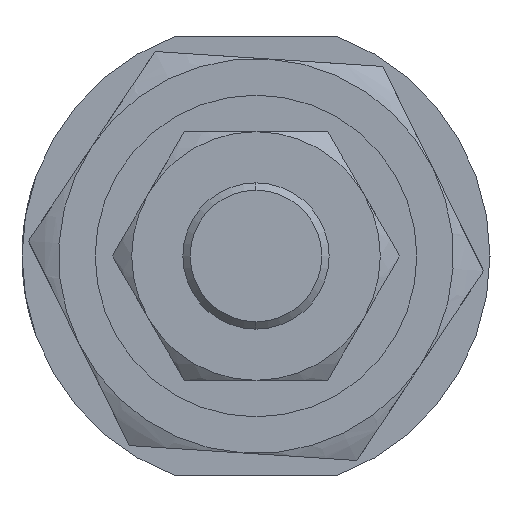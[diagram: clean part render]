
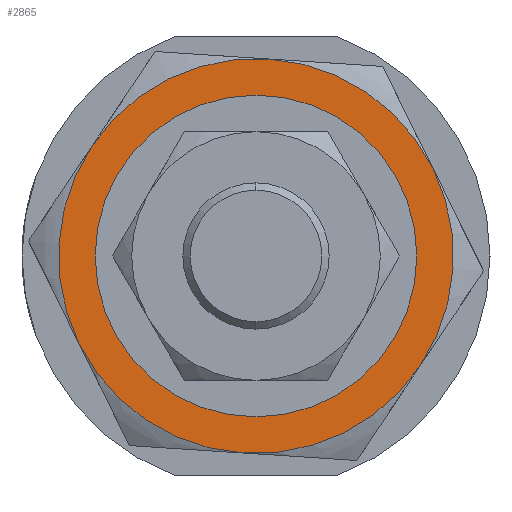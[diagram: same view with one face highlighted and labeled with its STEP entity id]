
A CAD part, left-side view. The second image highlights one B-rep face of the part: STEP entity #2865.
In plain terms, the highlighted planar face has unit normal (-1, 0, 0) as drawn and (0, 0, -1) by its records, which use the part's own axes.
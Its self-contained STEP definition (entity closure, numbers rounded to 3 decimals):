
#9 = ORIENTED_EDGE ( 'NONE', *, *, #1654, .F. ) ;
#50 = VERTEX_POINT ( 'NONE', #1786 ) ;
#89 = DIRECTION ( 'NONE',  ( 0., 0., 1. ) ) ;
#92 = DIRECTION ( 'NONE',  ( 1., 0., 0. ) ) ;
#369 = EDGE_CURVE ( 'NONE', #1678, #2189, #1329, .T. ) ;
#376 = CIRCLE ( 'NONE', #2902, 13.5 ) ;
#410 = EDGE_CURVE ( 'NONE', #2397, #2269, #2301, .T. ) ;
#460 = EDGE_CURVE ( 'NONE', #2189, #776, #2947, .T. ) ;
#476 = AXIS2_PLACEMENT_3D ( 'NONE', #1519, #824, #92 ) ;
#557 = AXIS2_PLACEMENT_3D ( 'NONE', #810, #3019, #2788 ) ;
#562 = PLANE ( 'NONE',  #476 ) ;
#593 = AXIS2_PLACEMENT_3D ( 'NONE', #2457, #2951, #1229 ) ;
#674 = AXIS2_PLACEMENT_3D ( 'NONE', #2234, #1983, #2940 ) ;
#678 = EDGE_CURVE ( 'NONE', #1805, #50, #688, .T. ) ;
#688 = CIRCLE ( 'NONE', #557, 13.5 ) ;
#704 = DIRECTION ( 'NONE',  ( 1., 0., 0. ) ) ;
#776 = VERTEX_POINT ( 'NONE', #1850 ) ;
#787 = AXIS2_PLACEMENT_3D ( 'NONE', #2177, #2919, #704 ) ;
#809 = EDGE_CURVE ( 'NONE', #2599, #1805, #376, .T. ) ;
#810 = CARTESIAN_POINT ( 'NONE',  ( 0., 0., -5. ) ) ;
#824 = DIRECTION ( 'NONE',  ( 0., 0., 1. ) ) ;
#832 = DIRECTION ( 'NONE',  ( 1., 0., 0. ) ) ;
#850 = AXIS2_PLACEMENT_3D ( 'NONE', #2618, #2855, #3100 ) ;
#860 = CARTESIAN_POINT ( 'NONE',  ( -10., 0., -5. ) ) ;
#1033 = CIRCLE ( 'NONE', #850, 13.5 ) ;
#1169 = CARTESIAN_POINT ( 'NONE',  ( 10., 0., -5. ) ) ;
#1229 = DIRECTION ( 'NONE',  ( 1., 0., 0. ) ) ;
#1290 = ORIENTED_EDGE ( 'NONE', *, *, #3061, .F. ) ;
#1322 = CARTESIAN_POINT ( 'NONE',  ( 0., 0., -5. ) ) ;
#1329 = CIRCLE ( 'NONE', #787, 13.5 ) ;
#1338 = EDGE_LOOP ( 'NONE', ( #2304, #2655, #1290, #2755, #2355, #9 ) ) ;
#1423 = AXIS2_PLACEMENT_3D ( 'NONE', #2202, #2929, #2952 ) ;
#1442 = CIRCLE ( 'NONE', #593, 13.5 ) ;
#1519 = CARTESIAN_POINT ( 'NONE',  ( 0., 0., -5. ) ) ;
#1573 = DIRECTION ( 'NONE',  ( 1., 0., 0. ) ) ;
#1654 = EDGE_CURVE ( 'NONE', #50, #1678, #1442, .T. ) ;
#1678 = VERTEX_POINT ( 'NONE', #2939 ) ;
#1733 = AXIS2_PLACEMENT_3D ( 'NONE', #3060, #89, #832 ) ;
#1786 = CARTESIAN_POINT ( 'NONE',  ( 6.75, 11.691, -5. ) ) ;
#1805 = VERTEX_POINT ( 'NONE', #2002 ) ;
#1843 = EDGE_CURVE ( 'NONE', #2269, #2397, #2452, .T. ) ;
#1850 = CARTESIAN_POINT ( 'NONE',  ( -6.75, -11.691, -5. ) ) ;
#1983 = DIRECTION ( 'NONE',  ( 0., 0., 1. ) ) ;
#2002 = CARTESIAN_POINT ( 'NONE',  ( 13.5, 0., -5. ) ) ;
#2177 = CARTESIAN_POINT ( 'NONE',  ( 0., 0., -5. ) ) ;
#2189 = VERTEX_POINT ( 'NONE', #2997 ) ;
#2190 = ORIENTED_EDGE ( 'NONE', *, *, #1843, .T. ) ;
#2202 = CARTESIAN_POINT ( 'NONE',  ( 0., 0., -5. ) ) ;
#2234 = CARTESIAN_POINT ( 'NONE',  ( 0., 0., -5. ) ) ;
#2269 = VERTEX_POINT ( 'NONE', #860 ) ;
#2290 = FACE_BOUND ( 'NONE', #2734, .T. ) ;
#2301 = CIRCLE ( 'NONE', #674, 10. ) ;
#2304 = ORIENTED_EDGE ( 'NONE', *, *, #678, .F. ) ;
#2349 = ORIENTED_EDGE ( 'NONE', *, *, #410, .T. ) ;
#2355 = ORIENTED_EDGE ( 'NONE', *, *, #369, .F. ) ;
#2397 = VERTEX_POINT ( 'NONE', #1169 ) ;
#2435 = CARTESIAN_POINT ( 'NONE',  ( 6.75, -11.691, -5. ) ) ;
#2452 = CIRCLE ( 'NONE', #1733, 10. ) ;
#2457 = CARTESIAN_POINT ( 'NONE',  ( 0., 0., -5. ) ) ;
#2564 = DIRECTION ( 'NONE',  ( 0., 0., 1. ) ) ;
#2599 = VERTEX_POINT ( 'NONE', #2435 ) ;
#2618 = CARTESIAN_POINT ( 'NONE',  ( 0., 0., -5. ) ) ;
#2655 = ORIENTED_EDGE ( 'NONE', *, *, #809, .F. ) ;
#2734 = EDGE_LOOP ( 'NONE', ( #2349, #2190 ) ) ;
#2755 = ORIENTED_EDGE ( 'NONE', *, *, #460, .F. ) ;
#2788 = DIRECTION ( 'NONE',  ( 1., 0., 0. ) ) ;
#2855 = DIRECTION ( 'NONE',  ( 0., 0., 1. ) ) ;
#2865 = ADVANCED_FACE ( 'NONE', ( #2290, #2977 ), #562, .F. ) ;
#2902 = AXIS2_PLACEMENT_3D ( 'NONE', #1322, #2564, #1573 ) ;
#2919 = DIRECTION ( 'NONE',  ( 0., 0., 1. ) ) ;
#2929 = DIRECTION ( 'NONE',  ( 0., 0., 1. ) ) ;
#2939 = CARTESIAN_POINT ( 'NONE',  ( -6.75, 11.691, -5. ) ) ;
#2940 = DIRECTION ( 'NONE',  ( 1., 0., 0. ) ) ;
#2947 = CIRCLE ( 'NONE', #1423, 13.5 ) ;
#2951 = DIRECTION ( 'NONE',  ( 0., 0., 1. ) ) ;
#2952 = DIRECTION ( 'NONE',  ( 1., 0., 0. ) ) ;
#2977 = FACE_OUTER_BOUND ( 'NONE', #1338, .T. ) ;
#2997 = CARTESIAN_POINT ( 'NONE',  ( -13.5, 0., -5. ) ) ;
#3019 = DIRECTION ( 'NONE',  ( 0., 0., 1. ) ) ;
#3060 = CARTESIAN_POINT ( 'NONE',  ( 0., 0., -5. ) ) ;
#3061 = EDGE_CURVE ( 'NONE', #776, #2599, #1033, .T. ) ;
#3100 = DIRECTION ( 'NONE',  ( 1., 0., 0. ) ) ;
